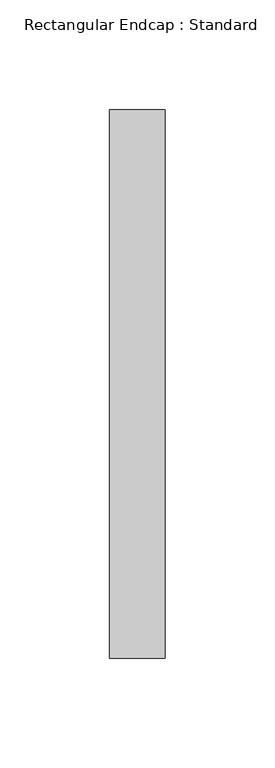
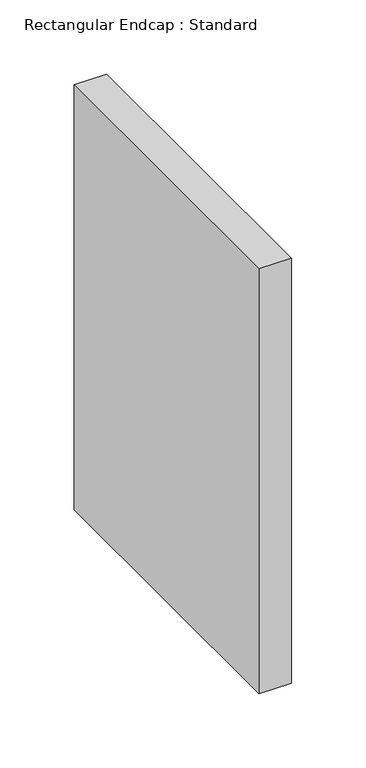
"""IFC4 building model written with IfcOpenShell, lengths in millimetres: duct fitting geometry, Rectangular Endcap : Standard."""

from ifc_helpers import new_model, si_unit, frame, origin, place, context, project, spatial, polyline, outline, extrude, source, transform, mapped, element, save


def rectangular_endcap_standard_c932a40a(model_context):
    return source(origin(), model_context, "Body", "SweptSolid", [
        extrude(outline(polyline([(0.0, -125.0), (0.0, 125.0), (25.4, 125.0), (25.4, -125.0), (0.0, -125.0)])), frame((0.0, 0.0, -175.0), z_axis=(0.0, 0.0, 1.0), x_axis=(1.0, 0.0, 0.0)), (0.0, 0.0, 1.0), 350.0),
    ])


if __name__ == "__main__":
    model = new_model("IFC4")
    model_context = context("Model", 3, world=origin())
    ifc_project = project(units=[si_unit("LENGTHUNIT", "METRE", prefix="MILLI")], contexts=[model_context])
    site = spatial("IfcSite", under=ifc_project)
    building = spatial("IfcBuilding", under=site)
    placement = place(None, origin())
    rectangular_endcap_standard_shape = rectangular_endcap_standard_c932a40a(model_context)
    element("IfcDuctFitting", 1, ObjectType="Rectangular Endcap : Standard", at=placement, inside=building, context=model_context, shape_type="MappedRepresentation", body=[
        mapped(rectangular_endcap_standard_shape, transform((0.0, 0.0, 0.0), x_axis=(1.0, 0.0, 0.0), y_axis=(0.0, 1.0, 0.0), z_axis=(0.0, 0.0, 1.0))),
    ])
    save(model, "model.ifc")
